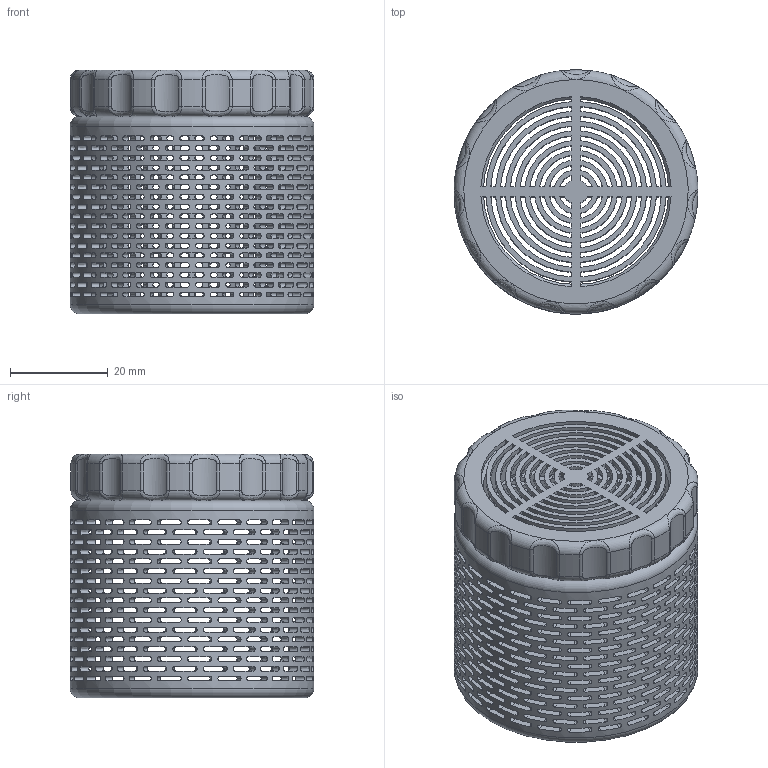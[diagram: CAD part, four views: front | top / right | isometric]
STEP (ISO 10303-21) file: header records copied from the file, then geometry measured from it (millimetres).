
FILE_DESCRIPTION(/* description */ (''),/* implementation_level */ '2;1');
FILE_NAME(/* name */ 'C:/Users/marca/Desktop/Silica container v18.step',/* time_stamp */ '2022-04-08T19:13:36-04:00',/* author */ (''),/* organization */ (''),/* preprocessor_version */ 'ST-DEVELOPER v18.1',/* originating_system */ 'Autodesk Translation Framework v10.14.0.1471',/* authorisation */ '');
FILE_SCHEMA (('AUTOMOTIVE_DESIGN { 1 0 10303 214 3 1 1 }'));
Length unit declared in the file: millimetre
Products named in the file (3): Silica container; Bottle; Cap
Assembly tree (2 placements, depth 2):
  Silica container
    Bottle
    Cap
Bounding box: 50 x 50 x 50 mm (x, y, z)
Volume: 17818.6 mm3; surface area: 30801.1 mm2
Topology: 2 solids, 2 shells, 2465 faces, 7032 edges, 4448 vertices
Faces by surface type: plane 1162, bspline 886, cylinder 229, cone 156, torus 32
Full cylindrical faces by diameter (mm): 38 x1, 42.2 x2, 42.8 x1, 43.7 x2, 44.3 x2, 46 x1, 50 x1
Entity records: 113747 total; most frequent: CARTESIAN_POINT 52593, ORIENTED_EDGE 14064, DIRECTION 10397, EDGE_CURVE 7032, VERTEX_POINT 4448, AXIS2_PLACEMENT_3D 3911, EDGE_LOOP 3344, LINE 2575
